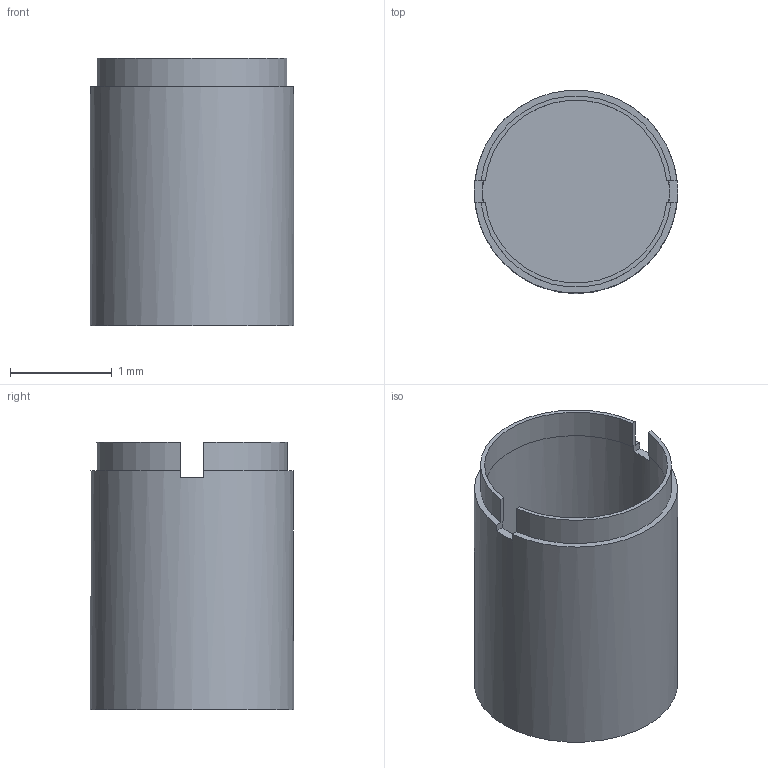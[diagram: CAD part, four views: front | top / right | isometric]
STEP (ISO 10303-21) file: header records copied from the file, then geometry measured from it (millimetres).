
FILE_DESCRIPTION(('Open CASCADE Model'),'2;1');
FILE_NAME('Open CASCADE Shape Model','2026-09-15T23:57:53',('Author'),( 'Open CASCADE'),'Open CASCADE STEP processor 7.9','Open CASCADE 7.9' ,'Unknown');
FILE_SCHEMA(('AUTOMOTIVE_DESIGN { 1 0 10303 214 1 1 1 1 }'));
Length unit declared in the file: millimetre
Products named in the file (1): Open CASCADE STEP translator 7.9 7
Bounding box: 2 x 2 x 2.63 mm (x, y, z)
Volume: 1.4 mm3; surface area: 37.4 mm2
Topology: 1 solids, 1 shells, 20 faces, 54 edges, 36 vertices
Faces by surface type: plane 14, cylinder 6
Full cylindrical faces by diameter (mm): 1.84 x1, 2 x1
Entity records: 1318 total; most frequent: CARTESIAN_POINT 323, DIRECTION 160, ORIENTED_EDGE 108, PCURVE 108, DEFINITIONAL_REPRESENTATION 108, LINE 66, VECTOR 66, B_SPLINE_CURVE_WITH_KNOTS 56
